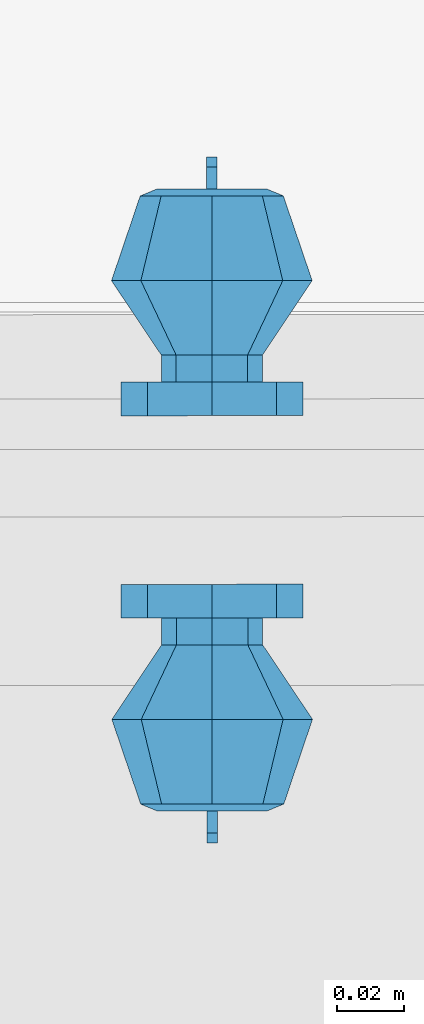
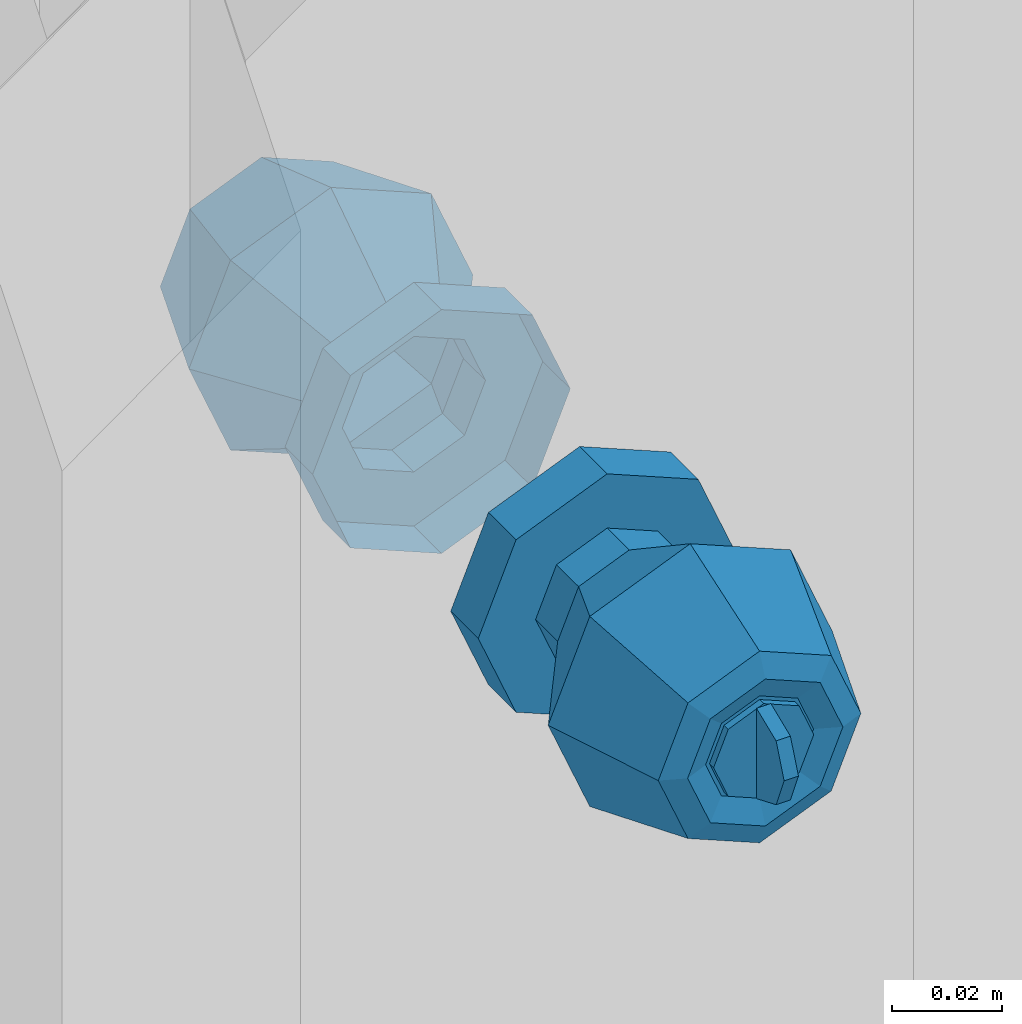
# One storey, part 67 of 127: 1 building element part, 2 elements without a shape of their own.
"""IFC2X3 building model written with IfcOpenShell, lengths in millimetres."""

from ifc_helpers import new_model, entity, si_unit, converted_unit, derived_unit, money_unit, direction, frame, origin_with_axes, place, context, subcontext, project, spatial, open_shell, faceted_brep, surface_model, material, type_object, element, aggregate, save


model = new_model("IFC2X3")

# Units and contexts
model_context = context("Model", 3, precision=1e-05, world=origin_with_axes(), true_north=direction((0.0, 1.0)))
body_context = subcontext(model_context, "Body", "Model", "MODEL_VIEW")
ifc_project = project(units=[si_unit("LENGTHUNIT", "METRE", prefix="MILLI"), si_unit("AREAUNIT", "SQUARE_METRE"), si_unit("VOLUMEUNIT", "CUBIC_METRE"), converted_unit("PLANEANGLEUNIT", "DEGREE", entity("IfcPlaneAngleMeasure", 0.0174532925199), si_unit("PLANEANGLEUNIT", "RADIAN"), dimensions=[0, 0, 0, 0, 0, 0, 0]), si_unit("SOLIDANGLEUNIT", "STERADIAN"), money_unit("EUR"), converted_unit("TIMEUNIT", "Year", entity("IfcTimeMeasure", 31556926.0), si_unit("TIMEUNIT", "SECOND"), dimensions=[0, 0, 1, 0, 0, 0, 0]), si_unit("MASSUNIT", "GRAM", prefix="KILO"), si_unit("THERMODYNAMICTEMPERATUREUNIT", "DEGREE_CELSIUS"), si_unit("LUMINOUSINTENSITYUNIT", "LUMEN"), si_unit("ENERGYUNIT", "JOULE", prefix="MEGA"), derived_unit("THERMALCONDUCTANCEUNIT", [(si_unit("POWERUNIT", "WATT"), 1), (si_unit("LENGTHUNIT", "METRE"), -1), (si_unit("THERMODYNAMICTEMPERATUREUNIT", "KELVIN"), -1)]), derived_unit("SPECIFICHEATCAPACITYUNIT", [(si_unit("ENERGYUNIT", "JOULE"), 1), (si_unit("MASSUNIT", "GRAM", prefix="KILO"), -1), (si_unit("THERMODYNAMICTEMPERATUREUNIT", "KELVIN"), -1)]), derived_unit("MASSDENSITYUNIT", [(si_unit("MASSUNIT", "GRAM", prefix="KILO"), 1), (si_unit("VOLUMEUNIT", "CUBIC_METRE"), -1)])], contexts=[model_context])

# Site, building, storey
site_placement = place(None, origin_with_axes())
site = spatial("IfcSite", under=ifc_project, at=site_placement, Name="Site", CompositionType="ELEMENT")
building_placement = place(site_placement, origin_with_axes())
building = spatial("IfcBuilding", under=site, at=building_placement, Name="Building", CompositionType="ELEMENT")
storey_placement = place(building_placement, origin_with_axes())
storey = spatial("IfcBuildingStorey", under=building, at=storey_placement, Name="1 KORRUS", CompositionType="ELEMENT", Elevation=0.0)

# Curtain wall, door, building element part
curtain_wall_type = type_object("IfcCurtainWallType", Name="SKS-2", PredefinedType="NOTDEFINED")
curtain_wall_placement = place(storey_placement, frame((24016.5741865, 38437.6405543, -0.000166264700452), z_axis=(0.0, 0.0, 1.0), x_axis=(1.0, 0.0, 0.0)))
curtain_wall = element("IfcCurtainWall", 1, at=curtain_wall_placement, inside=storey, type_object=curtain_wall_type, Name="Klaassein")
door_style = type_object("IfcDoorStyle", Name="Distinct Panel 5 x 5 x 20", ConstructionType="NOTDEFINED", OperationType="NOTDEFINED", ParameterTakesPrecedence=False, Sizeable=False)
door_placement = place(curtain_wall_placement, frame((-1154.99963122, -0.922976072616, 1100.0), z_axis=(0.0, 0.0, 1.0), x_axis=(0.999999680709, 0.000799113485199, 0.0)))
door = element("IfcDoor", 2, at=door_placement, type_object=door_style, Name="Siseklaasseina uks * CW Door 22")
aggregate(curtain_wall, [door])
ifc_material = material(Name="Teras - Roostevaba (1)")
building_element_part_placement = place(door_placement, origin_with_axes())
building_element_part = element("IfcBuildingElementPart", 3, at=building_element_part_placement, material=ifc_material, Name="Teras - Roostevaba (1)", context=body_context, shape_type="SurfaceModel", body=[
    surface_model("IfcShellBasedSurfaceModel", [(-363.0, -95.2132034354, -92.0), (-355.0, -95.2132034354, -88.686291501), (-355.0, -97.275238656, -83.7330973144), (-366.502437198, -97.2752386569, -88.4975628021), (-366.313708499, -95.2132034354, -100.0), (-363.0, -95.2132034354, -108.0), (-355.0, -95.2132034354, -111.313708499), (-347.0, -95.2132034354, -108.0), (-343.686291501, -95.2132034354, -100.0), (-347.0, -95.2132034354, -92.0), (-343.497562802, -97.275238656, -88.4975628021), (-355.0, -95.2249852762, -78.7750147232), (-370.00833102, -95.2249852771, -84.9916689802), (-371.266902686, -97.2752386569, -100.0), (-366.502437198, -97.2752386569, -111.502437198), (-355.0, -97.275238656, -116.266902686), (-343.497562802, -97.275238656, -111.502437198), (-338.733097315, -97.2752386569, -100.0), (-339.99166898, -95.2249852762, -84.9916689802), (-355.0, -70.0772711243, -70.2407628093), (-376.042958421, -70.0772711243, -78.9570415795), (-376.224985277, -95.2249852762, -100.0), (-370.00833102, -95.2249852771, -115.00833102), (-355.0, -95.2249852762, -121.224985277), (-339.99166898, -95.2249852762, -115.00833102), (-333.775014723, -95.2249852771, -100.0), (-333.95704158, -70.0772711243, -78.9570415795), (-355.0, -47.9999999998, -85.0), (-365.606601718, -47.9999999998, -89.3933982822), (-384.759237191, -70.0772711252, -100.0), (-376.042958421, -70.0772711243, -121.042958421), (-355.0, -70.0772711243, -129.759237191), (-333.95704158, -70.0772711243, -121.042958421), (-325.240762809, -70.0772711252, -100.0), (-344.393398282, -47.9999999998, -89.3933982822), (-355.0, -47.9799999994, -85.0), (-365.606601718, -47.9799999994, -89.3933982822), (-370.0, -47.9999999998, -100.0), (-365.606601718, -47.9999999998, -110.606601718), (-355.0, -47.9999999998, -115.0), (-344.393398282, -47.9999999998, -110.606601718), (-340.0, -47.9999999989, -100.0), (-344.393398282, -47.9800000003, -89.3933982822), (-355.0, -40.0999999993, -85.0), (-365.606601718, -40.0999999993, -89.3933982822), (-370.0, -47.9799999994, -100.0), (-365.606601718, -47.9799999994, -110.606601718), (-355.0, -47.9799999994, -115.0), (-344.393398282, -47.9800000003, -110.606601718), (-340.0, -47.9799999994, -100.0), (-344.393398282, -40.0999999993, -89.3933982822), (-355.0, -39.9999999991, -85.0), (-365.606601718, -39.9999999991, -89.3933982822), (-370.0, -40.1000000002, -100.0), (-365.606601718, -40.0999999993, -110.606601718), (-355.0, -40.0999999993, -115.0), (-344.393398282, -40.0999999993, -110.606601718), (-340.0, -40.0999999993, -100.0), (-344.393398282, -39.9999999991, -89.3933982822), (-355.0, -39.9999999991, -84.9), (-365.677312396, -39.9999999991, -89.3226876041), (-370.0, -39.9999999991, -100.0), (-365.606601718, -39.9999999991, -110.606601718), (-355.0, -39.9999999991, -115.0), (-344.393398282, -39.9999999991, -110.606601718), (-340.0, -40.0, -100.0), (-344.322687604, -40.0, -89.3226876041), (-355.0, -39.9999999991, -73.1), (-374.021172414, -39.9999999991, -80.9788275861), (-370.1, -39.9999999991, -100.0), (-365.677312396, -39.9999999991, -110.677312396), (-355.0, -39.9999999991, -115.1), (-344.322687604, -40.0, -110.677312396), (-339.9, -39.9999999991, -100.0), (-335.978827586, -40.0, -80.9788275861), (-355.0, -39.9999999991, -73.0), (-374.091883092, -40.0, -80.908116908), (-381.9, -39.9999999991, -100.0), (-374.021172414, -39.9999999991, -119.021172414), (-355.0, -39.9999999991, -126.9), (-335.978827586, -40.0, -119.021172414), (-328.1, -39.9999999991, -100.0), (-335.908116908, -40.0, -80.908116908), (-355.0, -39.9000000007, -73.0), (-374.091883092, -39.8999999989, -80.908116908), (-382.0, -40.0, -100.0), (-374.091883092, -40.0, -119.091883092), (-355.0, -39.9999999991, -127.0), (-335.908116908, -40.0, -119.091883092), (-328.0, -40.0, -100.0), (-335.908116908, -39.8999999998, -80.908116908), (-355.0, -29.9999999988, -73.0), (-374.091883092, -29.9999999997, -80.908116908), (-382.0, -39.8999999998, -100.0), (-374.091883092, -39.8999999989, -119.091883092), (-355.0, -39.9000000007, -127.0), (-335.908116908, -39.8999999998, -119.091883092), (-328.0, -39.8999999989, -100.0), (-335.908116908, -29.9999999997, -80.908116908), (-382.0, -29.9999999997, -100.0), (-374.091883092, -29.9999999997, -119.091883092), (-355.0, -29.9999999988, -127.0), (-335.908116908, -29.9999999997, -119.091883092), (-328.0, -29.9999999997, -100.0)], [open_shell([[[0, 1, 2, 3]], [[1, 0, 4, 5, 6, 7, 8, 9]], [[1, 9, 10, 2]], [[3, 2, 11, 12]], [[4, 0, 3, 13]], [[5, 4, 13, 14]], [[6, 5, 14, 15]], [[7, 6, 15, 16]], [[8, 7, 16, 17]], [[9, 8, 17, 10]], [[2, 10, 18, 11]], [[12, 11, 19, 20]], [[13, 3, 12, 21]], [[14, 13, 21, 22]], [[15, 14, 22, 23]], [[16, 15, 23, 24]], [[17, 16, 24, 25]], [[10, 17, 25, 18]], [[11, 18, 26, 19]], [[20, 19, 27, 28]], [[21, 12, 20, 29]], [[22, 21, 29, 30]], [[23, 22, 30, 31]], [[24, 23, 31, 32]], [[25, 24, 32, 33]], [[18, 25, 33, 26]], [[19, 26, 34, 27]], [[28, 27, 35, 36]], [[29, 20, 28, 37]], [[30, 29, 37, 38]], [[31, 30, 38, 39]], [[32, 31, 39, 40]], [[33, 32, 40, 41]], [[26, 33, 41, 34]], [[27, 34, 42, 35]], [[36, 35, 43, 44]], [[37, 28, 36, 45]], [[38, 37, 45, 46]], [[39, 38, 46, 47]], [[40, 39, 47, 48]], [[41, 40, 48, 49]], [[34, 41, 49, 42]], [[35, 42, 50, 43]], [[44, 43, 51, 52]], [[45, 36, 44, 53]], [[46, 45, 53, 54]], [[47, 46, 54, 55]], [[48, 47, 55, 56]], [[49, 48, 56, 57]], [[42, 49, 57, 50]], [[43, 50, 58, 51]], [[52, 51, 59, 60]], [[53, 44, 52, 61]], [[54, 53, 61, 62]], [[55, 54, 62, 63]], [[56, 55, 63, 64]], [[57, 56, 64, 65]], [[50, 57, 65, 58]], [[51, 58, 66, 59]], [[60, 59, 67, 68]], [[61, 52, 60, 69]], [[62, 61, 69, 70]], [[63, 62, 70, 71]], [[64, 63, 71, 72]], [[65, 64, 72, 73]], [[58, 65, 73, 66]], [[59, 66, 74, 67]], [[68, 67, 75, 76]], [[69, 60, 68, 77]], [[70, 69, 77, 78]], [[71, 70, 78, 79]], [[72, 71, 79, 80]], [[73, 72, 80, 81]], [[66, 73, 81, 74]], [[67, 74, 82, 75]], [[76, 75, 83, 84]], [[77, 68, 76, 85]], [[78, 77, 85, 86]], [[79, 78, 86, 87]], [[80, 79, 87, 88]], [[81, 80, 88, 89]], [[74, 81, 89, 82]], [[75, 82, 90, 83]], [[84, 83, 91, 92]], [[85, 76, 84, 93]], [[86, 85, 93, 94]], [[87, 86, 94, 95]], [[88, 87, 95, 96]], [[89, 88, 96, 97]], [[82, 89, 97, 90]], [[83, 90, 98, 91]], [[93, 84, 92, 99]], [[94, 93, 99, 100]], [[95, 94, 100, 101]], [[96, 95, 101, 102]], [[97, 96, 102, 103]], [[90, 97, 103, 98]]])]),
    faceted_brep([(-347.575378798, -95.2132034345, -107.424621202), (-355.0, -95.2132034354, -110.5), (-362.424621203, -95.2132034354, -107.424621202), (-365.5, -95.2132034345, -100.0), (-362.424621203, -95.2132034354, -92.5753787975), (-355.0, -95.2132034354, -89.5), (-347.575378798, -95.2132034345, -92.5753787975), (-344.5, -95.2132034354, -100.0), (-347.575378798, -96.7132034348, -107.424621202), (-355.0, -96.7132034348, -110.5), (-362.424621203, -96.7132034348, -107.424621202), (-365.5, -96.7132034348, -100.0), (-362.424621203, -96.7132034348, -92.5753787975), (-355.0, -96.7132034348, -89.5), (-347.575378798, -96.7132034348, -92.5753787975), (-344.5, -96.7132034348, -100.0)], [[[0, 1, 2, 3, 4, 5, 6, 7]], [[1, 0, 8, 9]], [[2, 1, 9, 10]], [[3, 2, 10, 11]], [[4, 3, 11, 12]], [[5, 4, 12, 13]], [[6, 5, 13, 14]], [[7, 6, 14, 15]], [[0, 7, 15, 8]], [[8, 15, 14, 13, 12, 11, 10, 9]]]),
    faceted_brep([(-353.5, -96.7132034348, -110.0), (-353.5, -103.784271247, -107.071067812), (-356.5, -103.784271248, -107.071067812), (-356.5, -96.7132034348, -110.0), (-353.5, -96.7132034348, -90.0), (-353.5, -103.784271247, -92.9289321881), (-353.5, -106.713203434, -100.0), (-356.5, -106.713203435, -100.0), (-356.5, -103.784271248, -92.9289321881), (-356.5, -96.7132034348, -90.0)], [[[0, 1, 2, 3]], [[0, 4, 5, 6, 1]], [[1, 6, 7, 2]], [[3, 2, 7, 8, 9]], [[4, 0, 3, 9]], [[5, 4, 9, 8]], [[6, 5, 8, 7]]]),
    surface_model("IfcShellBasedSurfaceModel", [(-363.0, 85.2132034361, -92.0), (-366.502437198, 87.2752386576, -88.4975628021), (-355.0, 87.2752386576, -83.7330973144), (-355.0, 85.2132034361, -88.686291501), (-366.313708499, 85.2132034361, -100.0), (-371.266902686, 87.2752386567, -100.0), (-370.00833102, 85.2249852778, -84.9916689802), (-355.0, 85.2249852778, -78.7750147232), (-343.497562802, 87.2752386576, -88.4975628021), (-347.0, 85.2132034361, -92.0), (-343.686291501, 85.213203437, -100.0), (-347.0, 85.2132034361, -108.0), (-355.0, 85.2132034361, -111.313708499), (-363.0, 85.2132034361, -108.0), (-366.502437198, 87.2752386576, -111.502437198), (-376.224985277, 85.2249852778, -100.0), (-376.042958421, 60.0772711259, -78.9570415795), (-355.0, 60.077271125, -70.2407628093), (-339.99166898, 85.2249852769, -84.9916689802), (-338.733097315, 87.2752386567, -100.0), (-343.497562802, 87.2752386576, -111.502437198), (-355.0, 87.2752386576, -116.266902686), (-370.00833102, 85.2249852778, -115.00833102), (-384.759237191, 60.0772711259, -100.0), (-365.606601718, 38.0000000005, -89.3933982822), (-355.0, 38.0000000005, -85.0), (-333.95704158, 60.0772711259, -78.9570415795), (-333.775014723, 85.2249852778, -100.0), (-339.99166898, 85.2249852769, -115.00833102), (-355.0, 85.2249852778, -121.224985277), (-376.042958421, 60.0772711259, -121.042958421), (-370.0, 38.0000000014, -100.0), (-365.606601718, 37.980000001, -89.3933982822), (-355.0, 37.980000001, -85.0), (-344.393398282, 38.0000000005, -89.3933982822), (-325.240762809, 60.0772711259, -100.0), (-333.95704158, 60.0772711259, -121.042958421), (-355.0, 60.077271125, -129.759237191), (-365.606601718, 38.0000000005, -110.606601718), (-370.0, 37.980000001, -100.0), (-365.606601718, 30.0999999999, -89.3933982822), (-355.0, 30.0999999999, -85.0), (-344.393398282, 37.980000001, -89.3933982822), (-340.0, 38.0000000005, -100.0), (-344.393398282, 38.0000000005, -110.606601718), (-355.0, 38.0000000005, -115.0), (-365.606601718, 37.980000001, -110.606601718), (-370.0, 30.1000000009, -100.0), (-365.606601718, 30.0000000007, -89.3933982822), (-355.0, 29.9999999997, -85.0), (-344.393398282, 30.1000000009, -89.3933982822), (-340.0, 37.9800000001, -100.0), (-344.393398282, 37.980000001, -110.606601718), (-355.0, 37.980000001, -115.0), (-365.606601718, 30.0999999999, -110.606601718), (-370.0, 30.0000000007, -100.0), (-365.677312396, 30.0000000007, -89.3226876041), (-355.0, 29.9999999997, -84.9), (-344.393398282, 29.9999999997, -89.3933982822), (-340.0, 30.1000000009, -100.0), (-344.393398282, 30.1000000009, -110.606601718), (-355.0, 30.0999999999, -115.0), (-365.606601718, 30.0000000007, -110.606601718), (-370.1, 29.9999999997, -100.0), (-374.021172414, 30.0000000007, -80.9788275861), (-355.0, 29.9999999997, -73.1), (-344.322687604, 30.0000000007, -89.3226876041), (-340.0, 30.0000000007, -100.0), (-344.393398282, 29.9999999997, -110.606601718), (-355.0, 29.9999999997, -115.0), (-365.677312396, 30.0000000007, -110.677312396), (-381.9, 30.0000000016, -100.0), (-374.091883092, 29.9999999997, -80.908116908), (-355.0, 29.9999999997, -73.0), (-335.978827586, 30.0000000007, -80.9788275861), (-339.9, 30.0000000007, -100.0), (-344.322687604, 30.0000000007, -110.677312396), (-355.0, 29.9999999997, -115.1), (-374.021172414, 30.0000000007, -119.021172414), (-382.0, 30.0000000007, -100.0), (-374.091883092, 29.9000000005, -80.908116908), (-355.0, 29.9000000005, -73.0), (-335.908116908, 30.0000000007, -80.908116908), (-328.1, 30.0000000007, -100.0), (-335.978827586, 30.0000000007, -119.021172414), (-355.0, 29.9999999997, -126.9), (-374.091883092, 29.9999999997, -119.091883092), (-382.0, 29.9000000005, -100.0), (-374.091883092, 20.0000000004, -80.908116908), (-355.0, 20.0000000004, -73.0), (-335.908116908, 29.9000000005, -80.908116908), (-328.0, 30.0000000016, -100.0), (-335.908116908, 30.0000000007, -119.091883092), (-355.0, 29.9999999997, -127.0), (-374.091883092, 29.9000000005, -119.091883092), (-382.0, 20.0000000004, -100.0), (-335.908116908, 20.0000000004, -80.908116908), (-328.0, 29.9000000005, -100.0), (-335.908116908, 29.9000000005, -119.091883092), (-355.0, 29.9000000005, -127.0), (-374.091883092, 20.0000000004, -119.091883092), (-328.0, 20.0000000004, -100.0), (-335.908116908, 20.0000000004, -119.091883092), (-355.0, 20.0000000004, -127.0)], [open_shell([[[0, 1, 2, 3]], [[4, 5, 1, 0]], [[1, 6, 7, 2]], [[3, 2, 8, 9]], [[3, 9, 10, 11, 12, 13, 4, 0]], [[13, 14, 5, 4]], [[5, 15, 6, 1]], [[6, 16, 17, 7]], [[2, 7, 18, 8]], [[9, 8, 19, 10]], [[10, 19, 20, 11]], [[11, 20, 21, 12]], [[12, 21, 14, 13]], [[14, 22, 15, 5]], [[15, 23, 16, 6]], [[16, 24, 25, 17]], [[7, 17, 26, 18]], [[8, 18, 27, 19]], [[19, 27, 28, 20]], [[20, 28, 29, 21]], [[21, 29, 22, 14]], [[22, 30, 23, 15]], [[23, 31, 24, 16]], [[24, 32, 33, 25]], [[17, 25, 34, 26]], [[18, 26, 35, 27]], [[27, 35, 36, 28]], [[28, 36, 37, 29]], [[29, 37, 30, 22]], [[30, 38, 31, 23]], [[31, 39, 32, 24]], [[32, 40, 41, 33]], [[25, 33, 42, 34]], [[26, 34, 43, 35]], [[35, 43, 44, 36]], [[36, 44, 45, 37]], [[37, 45, 38, 30]], [[38, 46, 39, 31]], [[39, 47, 40, 32]], [[40, 48, 49, 41]], [[33, 41, 50, 42]], [[34, 42, 51, 43]], [[43, 51, 52, 44]], [[44, 52, 53, 45]], [[45, 53, 46, 38]], [[46, 54, 47, 39]], [[47, 55, 48, 40]], [[48, 56, 57, 49]], [[41, 49, 58, 50]], [[42, 50, 59, 51]], [[51, 59, 60, 52]], [[52, 60, 61, 53]], [[53, 61, 54, 46]], [[54, 62, 55, 47]], [[55, 63, 56, 48]], [[56, 64, 65, 57]], [[49, 57, 66, 58]], [[50, 58, 67, 59]], [[59, 67, 68, 60]], [[60, 68, 69, 61]], [[61, 69, 62, 54]], [[62, 70, 63, 55]], [[63, 71, 64, 56]], [[64, 72, 73, 65]], [[57, 65, 74, 66]], [[58, 66, 75, 67]], [[67, 75, 76, 68]], [[68, 76, 77, 69]], [[69, 77, 70, 62]], [[70, 78, 71, 63]], [[71, 79, 72, 64]], [[72, 80, 81, 73]], [[65, 73, 82, 74]], [[66, 74, 83, 75]], [[75, 83, 84, 76]], [[76, 84, 85, 77]], [[77, 85, 78, 70]], [[78, 86, 79, 71]], [[79, 87, 80, 72]], [[80, 88, 89, 81]], [[73, 81, 90, 82]], [[74, 82, 91, 83]], [[83, 91, 92, 84]], [[84, 92, 93, 85]], [[85, 93, 86, 78]], [[86, 94, 87, 79]], [[87, 95, 88, 80]], [[81, 89, 96, 90]], [[82, 90, 97, 91]], [[91, 97, 98, 92]], [[92, 98, 99, 93]], [[93, 99, 94, 86]], [[94, 100, 95, 87]], [[90, 96, 101, 97]], [[97, 101, 102, 98]], [[98, 102, 103, 99]], [[99, 103, 100, 94]]])]),
    faceted_brep([(-347.575378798, 85.2132034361, -107.424621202), (-344.5, 85.2132034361, -100.0), (-347.575378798, 85.2132034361, -92.5753787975), (-355.0, 85.2132034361, -89.5), (-362.424621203, 85.2132034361, -92.5753787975), (-365.5, 85.2132034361, -100.0), (-362.424621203, 85.2132034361, -107.424621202), (-355.0, 85.2132034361, -110.5), (-347.575378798, 86.7132034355, -107.424621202), (-344.5, 86.7132034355, -100.0), (-347.575378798, 86.7132034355, -92.5753787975), (-355.0, 86.7132034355, -89.5), (-362.424621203, 86.7132034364, -92.5753787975), (-365.5, 86.7132034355, -100.0), (-362.424621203, 86.7132034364, -107.424621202), (-355.0, 86.7132034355, -110.5)], [[[0, 1, 2, 3, 4, 5, 6, 7]], [[0, 8, 9, 1]], [[1, 9, 10, 2]], [[2, 10, 11, 3]], [[3, 11, 12, 4]], [[4, 12, 13, 5]], [[5, 13, 14, 6]], [[6, 14, 15, 7]], [[7, 15, 8, 0]], [[8, 15, 14, 13, 12, 11, 10, 9]]]),
    faceted_brep([(-353.5, 86.7132034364, -110.0), (-356.5, 86.7132034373, -110.0), (-356.5, 93.7842712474, -107.071067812), (-353.5, 93.7842712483, -107.071067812), (-353.5, 86.7132034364, -90.0), (-356.5, 86.7132034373, -90.0), (-356.5, 93.7842712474, -92.9289321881), (-356.5, 96.7132034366, -100.0), (-353.5, 96.7132034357, -100.0), (-353.5, 93.7842712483, -92.9289321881)], [[[0, 1, 2, 3]], [[4, 5, 1, 0]], [[1, 5, 6, 7, 2]], [[3, 2, 7, 8]], [[0, 3, 8, 9, 4]], [[9, 6, 5, 4]], [[8, 7, 6, 9]]]),
])
aggregate(door, [building_element_part])

save(model, "model.ifc")
